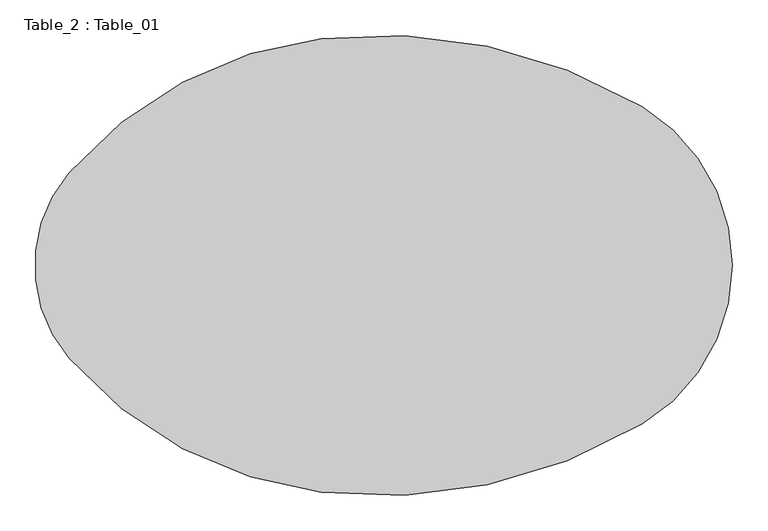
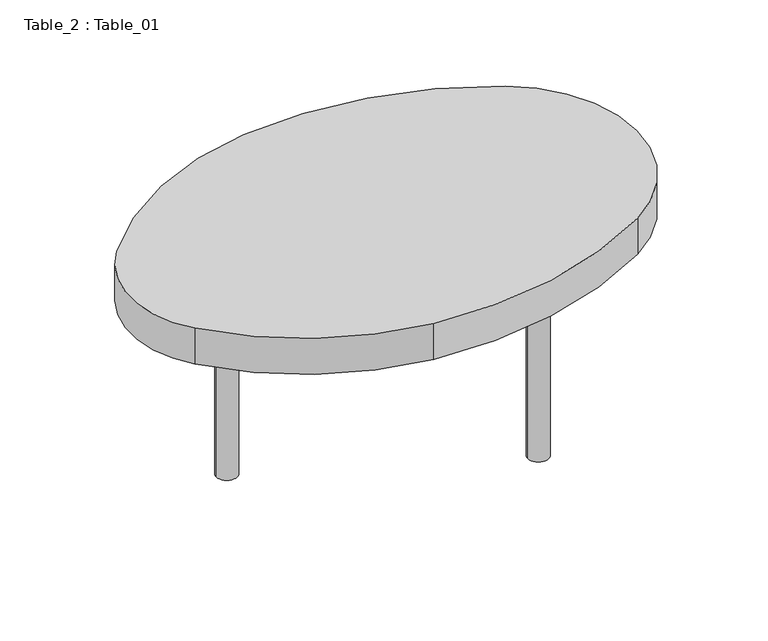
"""IFC4 building model written with IfcOpenShell, lengths in millimetres: furniture geometry, Table_2 : Table_01."""

from ifc_helpers import new_model, si_unit, point, frame, frame_2d, origin, place, context, project, spatial, circle_curve, trimmed, segment, composite_curve, outline, extrude, source, transform, mapped, element, save


def table_2_table_01_8b4bd145(model_context):
    return source(origin(), model_context, "Body", "SweptSolid", [
        extrude(outline(composite_curve([segment(trimmed(circle_curve(frame_2d((-241.0869597, 2466.2224128)), 20.0), [point((-261.0869597, 2466.2224128))], [point((-221.0869597, 2466.2224128))], False, "CARTESIAN"), True, "CONTINUOUS"), segment(trimmed(circle_curve(frame_2d((-241.0869597, 2466.2224128)), 20.0), [point((-221.0869597, 2466.2224128))], [point((-261.0869597, 2466.2224128))], False, "CARTESIAN"), True, "CONTINUOUS")], self_intersect=False)), frame((0.0, 0.0, 6510.0), z_axis=(0.0, 0.0, 1.0), x_axis=(1.0, 0.0, 0.0)), (0.0, 0.0, 1.0), 361.5481522),
        extrude(outline(composite_curve([segment(trimmed(circle_curve(frame_2d((237.0654183, 2612.4082652)), 20.0), [point((217.0654183, 2612.4082652))], [point((257.0654183, 2612.4082652))], False, "CARTESIAN"), True, "CONTINUOUS"), segment(trimmed(circle_curve(frame_2d((237.0654183, 2612.4082652)), 20.0), [point((257.0654183, 2612.4082652))], [point((217.0654183, 2612.4082652))], False, "CARTESIAN"), True, "CONTINUOUS")], self_intersect=False)), frame((0.0, 0.0, 6510.0), z_axis=(0.0, 0.0, 1.0), x_axis=(1.0, 0.0, 0.0)), (0.0, 0.0, 1.0), 361.5481522),
        extrude(outline(composite_curve([segment(trimmed(circle_curve(frame_2d((237.0654183, 2252.4082652)), 20.0), [point((217.0654183, 2252.4082652))], [point((257.0654183, 2252.4082652))], False, "CARTESIAN"), True, "CONTINUOUS"), segment(trimmed(circle_curve(frame_2d((237.0654183, 2252.4082652)), 20.0), [point((257.0654183, 2252.4082652))], [point((217.0654183, 2252.4082652))], False, "CARTESIAN"), True, "CONTINUOUS")], self_intersect=False)), frame((0.0, 0.0, 6510.0), z_axis=(0.0, 0.0, 1.0), x_axis=(1.0, 0.0, 0.0)), (0.0, 0.0, 1.0), 361.5481522),
        extrude(outline(composite_curve([segment(trimmed(circle_curve(frame_2d((32.2446728, 2684.0121362)), 552.7993453), [point((-33.1086588, 2135.0895021))], [point((-386.287696, 2322.8781272))], False, "CARTESIAN"), True, "CONTINUOUS"), segment(trimmed(circle_curve(frame_2d((-235.6255966, 2452.8781272)), 198.9951461), [point((-386.287696, 2322.8781272))], [point((-386.287696, 2582.8781272))], False, "CARTESIAN"), True, "CONTINUOUS"), segment(trimmed(circle_curve(frame_2d((32.2446728, 2221.7441183)), 552.7993453), [point((-386.287696, 2582.8781272))], [point((-33.1086588, 2770.6667523))], False, "CARTESIAN"), True, "CONTINUOUS"), segment(trimmed(circle_curve(frame_2d((51.3116928, 2061.5943814)), 714.0801236), [point((-33.1086588, 2770.6667523))], [point((416.8392375, 2675.0273746))], False, "CARTESIAN"), True, "CONTINUOUS"), segment(trimmed(circle_curve(frame_2d((284.4667211, 2452.8781272)), 258.5977014), [point((416.8392375, 2675.0273746))], [point((416.8392375, 2230.7288799))], False, "CARTESIAN"), True, "CONTINUOUS"), segment(trimmed(circle_curve(frame_2d((51.3116928, 2844.161873)), 714.0801236), [point((416.8392375, 2230.7288799))], [point((-33.1086588, 2135.0895021))], False, "CARTESIAN"), True, "CONTINUOUS")], self_intersect=False)), frame((0.0, 0.0, 6871.5481522), z_axis=(0.0, 0.0, 1.0), x_axis=(1.0, 0.0, 0.0)), (0.0, 0.0, 1.0), 73.2475958),
    ])


if __name__ == "__main__":
    model = new_model("IFC4")
    model_context = context("Model", 3, world=origin())
    ifc_project = project(units=[si_unit("LENGTHUNIT", "METRE", prefix="MILLI")], contexts=[model_context])
    site = spatial("IfcSite", under=ifc_project)
    building = spatial("IfcBuilding", under=site)
    placement = place(None, origin())
    table_2_table_01_shape = table_2_table_01_8b4bd145(model_context)
    element("IfcFurniture", 1, ObjectType="Table_2 : Table_01", at=placement, inside=building, context=model_context, shape_type="MappedRepresentation", body=[
        mapped(table_2_table_01_shape, transform((0.0, 0.0, 0.0), x_axis=(1.0, 0.0, 0.0), y_axis=(0.0, 1.0, 0.0), z_axis=(0.0, 0.0, 1.0))),
    ])
    save(model, "model.ifc")
